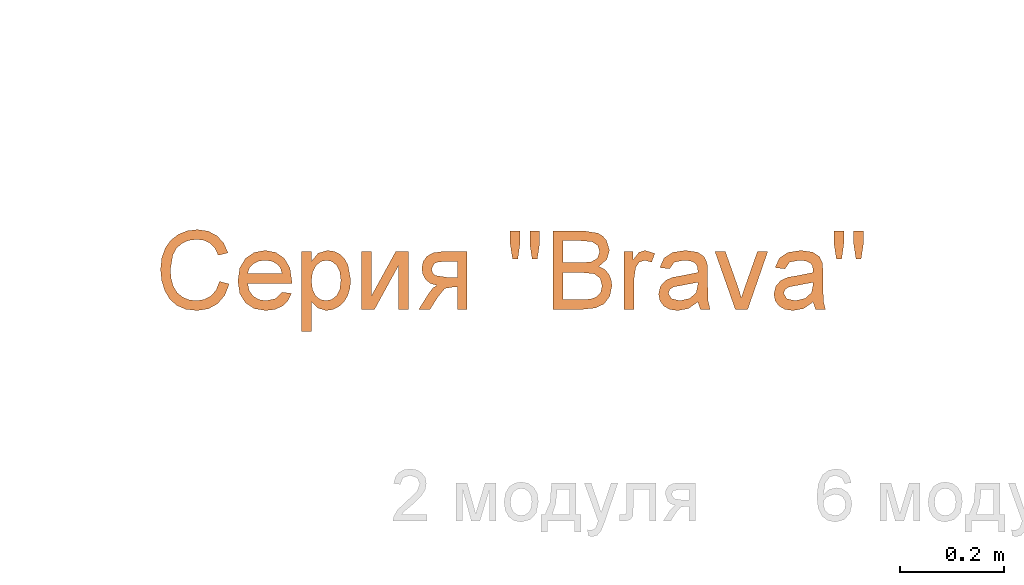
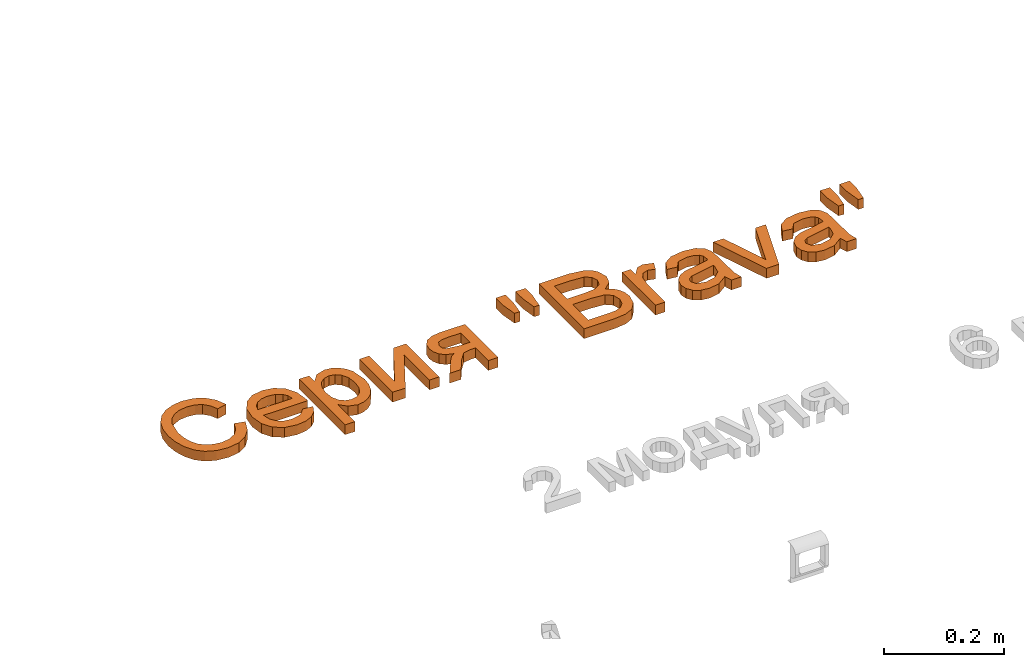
# One storey, part 23 of 71: 1 proxy.
"""IFC2X3 building model written with IfcOpenShell, lengths in millimetres."""

from ifc_helpers import new_model, entity, si_unit, converted_unit, derived_unit, direction, frame, origin, place, context, subcontext, project, spatial, polyline, outline, extrude, element, save


model = new_model("IFC2X3")

# Units and contexts
model_context = context("Model", 3, precision=0.01, world=origin(), true_north=direction((6.12303176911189e-17, 1.0)))
body_context = subcontext(model_context, "Body", "Model", "MODEL_VIEW")
ifc_project = project(units=[si_unit("LENGTHUNIT", "METRE", prefix="MILLI"), si_unit("AREAUNIT", "SQUARE_METRE"), si_unit("VOLUMEUNIT", "CUBIC_METRE"), converted_unit("PLANEANGLEUNIT", "DEGREE", entity("IfcRatioMeasure", 0.0174532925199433), si_unit("PLANEANGLEUNIT", "RADIAN"), dimensions=[0, 0, 0, 0, 0, 0, 0]), si_unit("MASSUNIT", "GRAM", prefix="KILO"), derived_unit("MASSDENSITYUNIT", [(si_unit("MASSUNIT", "GRAM", prefix="KILO"), 1), (si_unit("LENGTHUNIT", "METRE"), -3)]), si_unit("TIMEUNIT", "SECOND"), si_unit("FREQUENCYUNIT", "HERTZ"), si_unit("THERMODYNAMICTEMPERATUREUNIT", "DEGREE_CELSIUS"), derived_unit("THERMALTRANSMITTANCEUNIT", [(si_unit("MASSUNIT", "GRAM", prefix="KILO"), 1), (si_unit("THERMODYNAMICTEMPERATUREUNIT", "KELVIN"), -1), (si_unit("TIMEUNIT", "SECOND"), -3)]), derived_unit("VOLUMETRICFLOWRATEUNIT", [(si_unit("LENGTHUNIT", "METRE"), 3), (si_unit("TIMEUNIT", "SECOND"), -1)]), si_unit("ELECTRICCURRENTUNIT", "AMPERE"), si_unit("ELECTRICVOLTAGEUNIT", "VOLT"), si_unit("POWERUNIT", "WATT"), si_unit("FORCEUNIT", "NEWTON", prefix="KILO"), si_unit("ILLUMINANCEUNIT", "LUX"), si_unit("LUMINOUSFLUXUNIT", "LUMEN"), si_unit("LUMINOUSINTENSITYUNIT", "CANDELA"), derived_unit("USERDEFINED", [(si_unit("MASSUNIT", "GRAM", prefix="KILO"), -1), (si_unit("LENGTHUNIT", "METRE"), -2), (si_unit("TIMEUNIT", "SECOND"), 3), (si_unit("LUMINOUSFLUXUNIT", "LUMEN"), 1)]), derived_unit("LINEARVELOCITYUNIT", [(si_unit("LENGTHUNIT", "METRE"), 1), (si_unit("TIMEUNIT", "SECOND"), -1)]), si_unit("PRESSUREUNIT", "PASCAL"), derived_unit("USERDEFINED", [(si_unit("LENGTHUNIT", "METRE"), -2), (si_unit("MASSUNIT", "GRAM", prefix="KILO"), 1), (si_unit("TIMEUNIT", "SECOND"), -2)])], contexts=[model_context])

# Site, building, storey
site_placement = place(None, origin())
site = spatial("IfcSite", under=ifc_project, at=site_placement, Name="Default", CompositionType="ELEMENT")
building_placement = place(site_placement, origin())
building = spatial("IfcBuilding", under=site, at=building_placement, Name="Наименование здания", CompositionType="ELEMENT")
storey_placement = place(building_placement, origin())
storey = spatial("IfcBuildingStorey", under=building, at=storey_placement, Name="Этаж 01", CompositionType="ELEMENT", Elevation=0.0)

# Proxy
proxy_placement = place(storey_placement, origin())
element("IfcBuildingElementProxy", 1, at=proxy_placement, inside=storey, Name="Текст модели:150 мм Arial", ObjectType="Текст модели:150 мм Arial", context=body_context, shape_type="SweptSolid", body=[
    extrude(outline(polyline([(2.68252101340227, -55.5272408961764), (0.56989528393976, -74.8636369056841), (24.1738038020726, -74.488515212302), (43.9938289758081, -67.3949902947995), (59.5002128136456, -54.1006478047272), (70.1631973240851, -35.1230733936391), (75.568485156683, -13.8106158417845), (74.7558263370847, 5.04294074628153), (68.1237380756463, 21.7638876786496), (56.0707375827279, 36.6785162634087), (39.9649328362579, 49.0882033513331), (21.1744318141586, 58.2943257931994), (-0.168059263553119, 63.9714850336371), (-20.2818307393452, 64.4164020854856), (-38.479845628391, 59.7431641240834), (-54.0750669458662, 50.0658583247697), (-66.5405339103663, 36.3111227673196), (-75.3492857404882, 19.4055955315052), (-79.9019211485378, -0.950856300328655), (-77.7012035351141, -20.033757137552), (-69.0662723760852, -37.1523542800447), (-54.3162671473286, -51.6158950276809), (-43.4621992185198, -35.5812125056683), (-54.0046473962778, -24.6190736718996), (-59.6669952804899, -12.9440693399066), (-60.7285861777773, -0.332714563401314), (-57.4687633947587, 13.4384756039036), (-49.8682812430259, 27.8608393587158), (-39.5197541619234, 38.1582391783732), (-27.1289583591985, 44.2580751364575), (-13.401670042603, 46.0877473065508), (14.4845942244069, 40.6867797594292), (30.260867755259, 33.2090290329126), (42.8304103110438, 23.904637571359), (51.5986154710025, 12.8261465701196), (55.9708768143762, 0.0260972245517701), (56.366701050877, -13.4889612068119), (53.2055948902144, -26.7124794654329), (45.4648414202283, -40.5952158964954), (34.2795364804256, -50.3750178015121), (19.9264922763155, -55.5272408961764), (2.68252101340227, -55.5272408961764)])), frame((6977.94841539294, -11113.7067682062, 0.0), z_axis=(0.0, 0.0, -1.0), x_axis=(-0.353343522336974, -0.935493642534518, 0.0)), (0.0, 0.0, -1.0), 20.0),
    extrude(outline(polyline([(-12.1519235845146, -30.562759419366), (-23.3028322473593, -45.4710024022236), (-8.67600558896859, -50.3662606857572), (6.18277634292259, -49.9698260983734), (20.8164252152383, -44.1721168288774), (34.7678526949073, -32.8635510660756), (47.4570640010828, -14.3885693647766), (51.2430729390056, 5.61202992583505), (45.9060763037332, 25.8663302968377), (31.2262708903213, 45.1024152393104), (10.9154740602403, 59.6770093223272), (-9.99269287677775, 64.6676720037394), (-29.9463894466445, 60.6331852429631), (-47.3937751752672, 48.1323309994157), (-58.865327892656, 30.7635073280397), (-61.9660241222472, 11.0147969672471), (-56.1560561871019, -9.52443743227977), (-40.8956164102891, -29.2648332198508), (-37.1706876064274, -32.7160206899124), (21.6964908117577, 28.113397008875), (29.5607979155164, 15.9656989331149), (31.7422008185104, 3.31507577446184), (28.720812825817, -8.97205129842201), (20.9767472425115, -20.0292611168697), (5.30526907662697, -30.562759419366), (-12.1519235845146, -30.562759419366)]), holes=[polyline([(8.16121838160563, 41.2120477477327), (-37.6840592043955, -6.16140575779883), (-43.0633748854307, 2.58957596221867), (-44.7058228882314, 11.1286426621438), (-41.8277013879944, 23.6248066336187), (-33.8073361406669, 35.0865524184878), (-23.7122716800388, 42.9855035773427), (-12.6145549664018, 46.8552978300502), (-1.62109020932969, 46.3720932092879), (8.16121838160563, 41.2120477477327)])]), frame((7118.38872642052, -11143.9162327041, 0.0), z_axis=(0.0, 0.0, -1.0), x_axis=(-0.695421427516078, -0.718602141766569, 0.0)), (0.0, 0.0, -1.0), 20.0),
    extrude(outline(polyline([(-51.3898957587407, -92.5503727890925), (-32.5543376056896, -92.5503727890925), (-32.5543376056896, -35.4550871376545), (-20.6165668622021, -47.6871634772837), (-4.22742397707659, -52.5248117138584), (7.98165973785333, -50.7175914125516), (19.5929352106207, -45.2959305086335), (29.5625372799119, -36.4851567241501), (36.8466007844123, -24.5105977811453), (41.3025714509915, -10.103419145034), (42.7878950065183, 6.00521371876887), (37.5271824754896, 35.0311031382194), (30.9972770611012, 46.784932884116), (21.9289858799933, 55.5589184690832), (10.7913584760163, 61.0219660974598), (-1.9465556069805, 62.8429819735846), (-19.5313149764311, 57.6374517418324), (-32.5543376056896, 42.020861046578), (-32.5543376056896, 60.4885372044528), (-51.3898957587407, 60.4885372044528), (-51.3898957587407, -92.5503727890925)]), holes=[polyline([(-32.5543376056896, 4.27616834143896), (-30.3792353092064, 21.3596884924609), (-23.8539284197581, 33.8354866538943), (-14.5051272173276, 41.4644395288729), (-3.85954198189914, 44.0074238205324), (6.74465652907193, 41.6161908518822), (15.7485683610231, 34.4424919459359), (21.9013947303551, 22.4679330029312), (23.952336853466, 5.67411992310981), (21.8508109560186, -11.8462600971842), (15.5462332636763, -24.0875334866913), (6.29859960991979, -31.288823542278), (-4.63209417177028, -33.6892535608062), (-15.3880440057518, -31.3715969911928), (-24.4057514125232, -24.4186272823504), (-30.5171910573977, -12.6096152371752), (-32.5543376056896, 4.27616834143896)])]), frame((7238.08364010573, -11139.2296919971, 0.0)), (0.0, 0.0, 1.0), 20.0),
    extrude(outline(polyline([(-55.3809555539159, -44.7638811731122), (55.2779485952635, -44.7638811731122), (55.2779485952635, -20.1157874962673), (-28.5991463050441, 25.8694619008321), (55.2779485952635, 25.8694619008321), (55.2779485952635, 44.7050200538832), (-55.3809555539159, 44.7050200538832), (-55.3809555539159, 20.35123197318), (29.0111741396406, -25.9283230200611), (-55.3809555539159, -25.9283230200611), (-55.3809555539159, -44.7638811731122)])), frame((7346.82541920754, -11134.1221103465, 0.0), z_axis=(0.0, 0.0, 1.0), x_axis=(0.0, -1.0, 0.0)), (0.0, 0.0, 1.0), 20.0),
    extrude(outline(polyline([(-56.4073463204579, -58.5456604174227), (-7.25831176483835, -58.5456604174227), (9.02966357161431, -56.3291713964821), (20.9582372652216, -49.6797043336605), (28.2698919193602, -39.4709789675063), (30.7071101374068, -26.576715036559), (28.9228824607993, -15.2091613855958), (23.5701994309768, -5.23955931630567), (14.5203023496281, 2.25603633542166), (1.64443251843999, 6.2015707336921), (9.33316621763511, 11.0208248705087), (17.6840875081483, 21.8733437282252), (36.5932220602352, 52.1132437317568), (14.8146079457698, 52.1132437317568), (-0.194977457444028, 28.2009140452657), (-13.3283646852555, 12.1244708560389), (-27.3078805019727, 9.73323788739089), (-37.5717881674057, 9.73323788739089), (-37.5717881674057, 52.1132437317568), (-56.4073463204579, 52.1132437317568), (-56.4073463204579, -58.5456604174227)]), holes=[polyline([(-37.5717881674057, -39.7101022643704), (-37.5717881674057, -9.10232026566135), (-18.2947716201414, -9.10232026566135), (5.2312819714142, -12.9834753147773), (10.2114844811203, -17.9636778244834), (11.8715519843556, -25.1419752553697), (7.36499754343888, -35.3507006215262), (0.0855325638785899, -38.6202518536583), (-12.739753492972, -39.7101022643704), (-37.5717881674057, -39.7101022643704)])]), frame((7448.13644185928, -11137.2868152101, 0.0), z_axis=(0.0, 0.0, 1.0), x_axis=(-1.0, 0.0, 0.0)), (0.0, 0.0, 1.0), 20.0),
    extrude(outline(polyline([(-4.89896190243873, -27.7505651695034), (5.2177929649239, -27.7505651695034), (9.33807131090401, 1.34890064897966), (9.33807131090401, 26.4016645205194), (-9.49748684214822, 26.4016645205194), (-9.49748684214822, 1.34890064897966), (-4.89896190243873, -27.7505651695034)])), frame((7596.44684194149, -11065.1172582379, 0.0)), (0.0, 0.0, 1.0), 20.0),
    extrude(outline(polyline([(-83.1819061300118, -76.323341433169), (-26.1234086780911, -76.323341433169), (-1.97195569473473, -73.7297733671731), (14.4171871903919, -66.0778278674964), (25.3984647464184, -51.6568536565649), (29.8314427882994, -31.4049498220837), (28.2081634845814, -18.7957944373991), (23.3383255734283, -7.97086672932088), (15.4518553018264, 0.508813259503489), (4.77867891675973, 6.08222548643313), (20.0641758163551, 19.4179478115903), (25.1225532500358, 37.0211012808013), (19.1076826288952, 56.2981178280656), (11.9431807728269, 64.3041497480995), (2.47941644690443, 69.9281457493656), (-25.681950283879, 74.3611237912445), (-83.1819061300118, 74.3611237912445), (-83.1819061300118, -76.323341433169)]), holes=[polyline([(-64.3463479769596, -57.4877832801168), (-64.3463479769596, -5.68999835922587), (-27.5581484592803, -5.68999835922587), (-4.28961226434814, -8.20999002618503), (7.39064108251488, -16.9471874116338), (10.9958846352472, -31.5888908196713), (7.92406997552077, -44.2808196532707), (0.0881834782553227, -52.6501350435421), (-11.739222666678, -56.7520192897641), (-25.7187384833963, -57.4877832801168), (-64.3463479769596, -57.4877832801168)]), polyline([(-64.3463479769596, 13.1455597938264), (-64.3463479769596, 55.5255656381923), (-32.5613435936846, 55.5255656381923), (-8.35470831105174, 53.5573969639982), (2.49781054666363, 46.2917275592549), (6.28699509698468, 34.0044689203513), (2.22189905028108, 21.7356043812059), (-9.86302449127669, 14.7642405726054), (-29.9493814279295, 13.1455597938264), (-64.3463479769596, 13.1455597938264)])]), frame((7752.53682814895, -11113.0767175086, 0.0)), (0.0, 0.0, 1.0), 20.0),
    extrude(outline(polyline([(-26.1606546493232, -81.4207751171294), (-7.32509649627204, -81.4207751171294), (-7.32509649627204, -23.2586316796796), (-4.27167593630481, -1.25928836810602), (2.51574687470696, 9.04140749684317), (13.1659306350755, 12.7570156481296), (26.40968246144, 8.89425469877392), (32.7004645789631, 25.780038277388), (13.7913300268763, 31.5925738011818), (2.01910618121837, 27.95054204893), (-9.67954126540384, 12.8673802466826), (-9.67954126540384, 29.23812903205), (-26.1606546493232, 29.23812903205), (-26.1606546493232, -81.4207751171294)])), frame((7832.07337327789, -11107.9792838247, 0.0)), (0.0, 0.0, 1.0), 20.0),
    extrude(outline(polyline([(49.6524096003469, 10.0181831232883), (64.5432257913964, 10.0181831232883), (70.4995522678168, 27.8871625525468), (54.2883394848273, 29.3355270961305), (22.9420080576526, 38.7760718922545), (0.710484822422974, 46.1865796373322), (-15.2157084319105, 50.5258565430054), (-29.1700318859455, 49.0891254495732), (-41.2222862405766, 39.5147959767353), (-51.6167739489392, 18.9177724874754), (-55.8804334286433, -5.85565960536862), (-50.843149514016, -24.8298167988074), (-35.9697834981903, -38.3769694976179), (-27.7798345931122, -21.252530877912), (-37.1040448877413, -8.56625349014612), (-34.5156022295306, 10.6580228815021), (-29.3910674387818, 21.7272506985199), (-22.7658175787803, 28.6898706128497), (-16.3179778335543, 30.6413818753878), (-7.93316863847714, 29.2133758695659), (-3.98942903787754, 27.7824615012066), (-8.17747109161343, -5.2565369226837), (-10.6437625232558, -21.6131678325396), (-8.95109552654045, -36.079363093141), (-1.68600590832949, -48.4864376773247), (11.3085579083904, -56.6182193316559), (24.077723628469, -58.3588743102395), (36.0005558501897, -54.7859509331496), (46.0329524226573, -45.8907241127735), (53.1308111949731, -31.664468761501), (55.9868232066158, -11.3466480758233), (49.6524096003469, 10.0181831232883)]), holes=[polyline([(13.9144507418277, 21.9308360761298), (18.9401012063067, 20.139284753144), (31.8183305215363, 12.7055101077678), (38.2807120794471, -2.4005249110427), (36.5298778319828, -21.9040040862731), (27.4499699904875, -36.2305979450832), (16.0084717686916, -38.330435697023), (9.94744424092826, -33.5956214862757), (7.55677023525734, -25.0624858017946), (9.78457593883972, -8.72330506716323), (13.9144507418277, 21.9308360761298)])]), frame((7921.97385120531, -11131.3370062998, 0.0), z_axis=(0.0, 0.0, 1.0), x_axis=(0.316227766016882, -0.948683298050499, 0.0)), (0.0, 0.0, 1.0), 20.0),
    extrude(outline(polyline([(-11.7354356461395, -61.3545416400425), (12.1401058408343, -61.3545416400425), (50.5837743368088, 49.304362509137), (30.6445701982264, 49.304362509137), (6.9161815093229, -18.2387718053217), (-0.036788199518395, -39.2816219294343), (-7.13691070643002, -16.9879730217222), (-30.7181465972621, 49.304362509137), (-50.6573507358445, 49.304362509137), (-11.7354356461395, -61.3545416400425)])), frame((8030.79898228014, -11128.0455173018, 0.0)), (0.0, 0.0, 1.0), 20.0),
    extrude(outline(polyline([(-4.94188146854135, -27.7505651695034), (4.99093240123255, -27.7505651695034), (9.4055163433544, 1.34890064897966), (9.4055163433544, 26.4016645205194), (-9.43004180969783, 26.4016645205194), (-9.43004180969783, 1.34890064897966), (-4.94188146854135, -27.7505651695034)])), frame((7634.05051321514, -11065.1172582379, 0.0)), (0.0, 0.0, 1.0), 20.0),
    extrude(outline(polyline([(49.6524096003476, 10.0181831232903), (64.5432257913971, 10.0181831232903), (70.4995522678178, 27.8871625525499), (54.288339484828, 29.3355270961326), (22.9420080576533, 38.7760718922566), (0.710484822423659, 46.1865796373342), (-15.2157084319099, 50.5258565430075), (-29.1700318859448, 49.0891254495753), (-41.2222862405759, 39.5147959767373), (-51.6167739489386, 18.9177724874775), (-55.8804334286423, -5.85565960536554), (-50.843149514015, -24.8298167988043), (-35.9697834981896, -38.3769694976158), (-27.7798345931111, -21.252530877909), (-37.1040448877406, -8.56625349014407), (-34.51560222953, 10.6580228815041), (-29.3910674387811, 21.727250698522), (-22.7658175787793, 28.6898706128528), (-16.3179778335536, 30.6413818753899), (-7.93316863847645, 29.2133758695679), (-3.98942903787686, 27.7824615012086), (-8.1774710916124, -5.25653692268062), (-10.6437625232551, -21.6131678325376), (-8.95109552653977, -36.0793630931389), (-1.68600590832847, -48.4864376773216), (11.3085579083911, -56.6182193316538), (24.07772362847, -58.3588743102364), (36.0005558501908, -54.7859509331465), (46.032952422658, -45.8907241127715), (53.1308111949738, -31.664468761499), (55.9868232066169, -11.3466480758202), (49.6524096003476, 10.0181831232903)]), holes=[polyline([(13.9144507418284, 21.9308360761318), (18.9401012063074, 20.139284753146), (31.818330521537, 12.7055101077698), (38.2807120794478, -2.40052491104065), (36.5298778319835, -21.904004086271), (27.4499699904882, -36.2305979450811), (16.0084717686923, -38.330435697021), (9.94744424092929, -33.5956214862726), (7.55677023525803, -25.0624858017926), (9.7845759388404, -8.72330506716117), (13.9144507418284, 21.9308360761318)])]), frame((8143.29165950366, -11131.3370062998, 0.0), z_axis=(0.0, 0.0, 1.0), x_axis=(0.316227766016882, -0.948683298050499, 0.0)), (0.0, 0.0, 1.0), 20.0),
    extrude(outline(polyline([(-4.89896190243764, -27.7505651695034), (5.2177929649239, -27.7505651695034), (9.33807131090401, 1.34890064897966), (9.33807131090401, 26.4016645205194), (-9.49748684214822, 26.4016645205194), (-9.49748684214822, 1.34890064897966), (-4.89896190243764, -27.7505651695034)])), frame((8218.0202609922, -11065.1172582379, 0.0)), (0.0, 0.0, 1.0), 20.0),
    extrude(outline(polyline([(-4.94188146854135, -27.7505651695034), (4.99093240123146, -27.7505651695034), (9.40551634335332, 1.34890064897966), (9.40551634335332, 26.4016645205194), (-9.43004180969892, 26.4016645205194), (-9.43004180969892, 1.34890064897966), (-4.94188146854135, -27.7505651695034)])), frame((8255.62393226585, -11065.1172582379, 0.0)), (0.0, 0.0, 1.0), 20.0),
])

save(model, "model.ifc")
